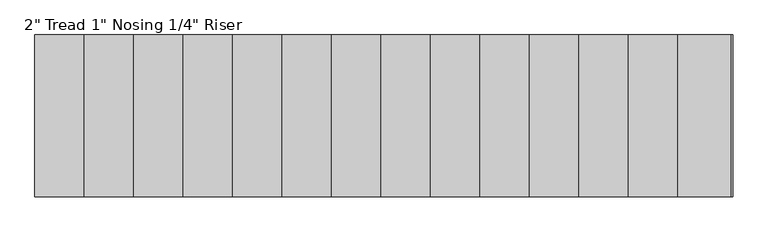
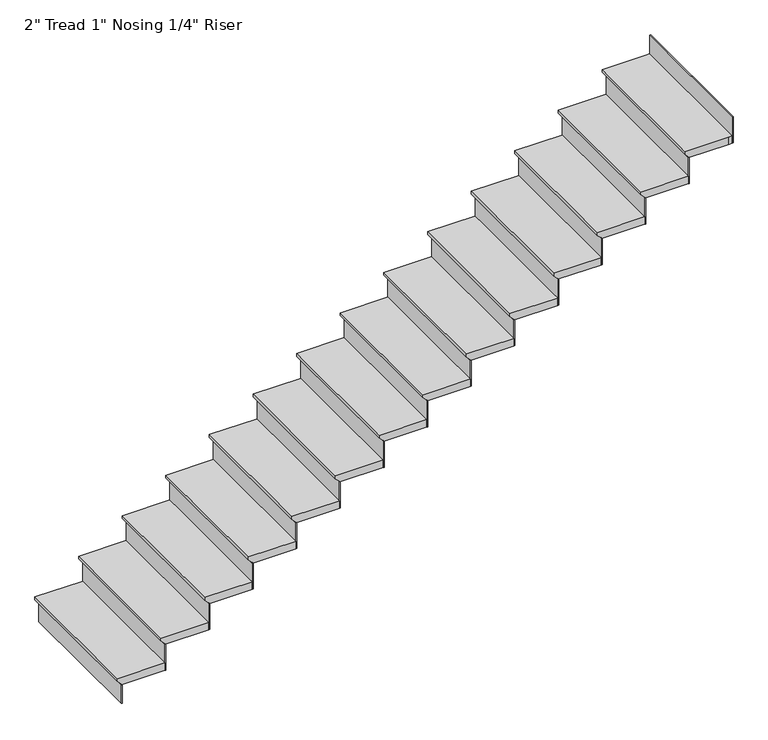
"""IFC4 building model written with IfcOpenShell, lengths in millimetres: stair flight geometry."""

from ifc_helpers import new_model, si_unit, origin, place, context, project, spatial, faceted_brep, source, transform, mapped, element, save


def stair_flight_67c8fb9e(model_context):
    return source(origin(), model_context, "Body", "Brep", [
        faceted_brep([(15099.262245, 3674.9112109, 157.9306452), (15099.262245, 3674.9112109, 176.9806452), (15099.262245, 4589.3112109, 176.9806452), (15099.262245, 4589.3112109, 157.9306452), (15124.662245, 3674.9112109, 132.5306452), (15124.662245, 4589.3112109, 132.5306452), (15404.062245, 3674.9112109, 176.9806452), (15404.062245, 4589.3112109, 176.9806452), (15124.662245, 4589.3112109, 126.1806452), (15404.062245, 4589.3112109, 126.1806452), (15404.062245, 3674.9112109, 126.1806452), (15124.662245, 3674.9112109, 126.1806452)], [[[0, 1, 2, 3]], [[4, 0, 3, 5]], [[2, 1, 6, 7]], [[8, 9, 10, 11]], [[2, 7, 9, 8, 5, 3]], [[8, 11, 4, 5]], [[6, 1, 0, 4, 11, 10]], [[7, 6, 10, 9]]]),
        faceted_brep([(15124.662245, 3674.9112109, 126.1806452), (15124.662245, 3674.9112109, 0.0), (15131.012245, 3674.9112109, 0.0), (15131.012245, 3674.9112109, 126.1806452), (15124.662245, 4589.3112109, 126.1806452), (15131.012245, 4589.3112109, 126.1806452), (15131.012245, 4589.3112109, 0.0), (15124.662245, 4589.3112109, 0.0)], [[[0, 1, 2, 3]], [[4, 5, 6, 7]], [[1, 0, 4, 7]], [[2, 1, 7, 6]], [[3, 2, 6, 5]], [[0, 3, 5, 4]]]),
        faceted_brep([(15404.062245, 3674.9112109, 303.1612903), (15404.062245, 3674.9112109, 126.1806452), (15410.412245, 3674.9112109, 126.1806452), (15410.412245, 3674.9112109, 303.1612903), (15404.062245, 4589.3112109, 303.1612903), (15410.412245, 4589.3112109, 303.1612903), (15410.412245, 4589.3112109, 126.1806452), (15404.062245, 4589.3112109, 126.1806452)], [[[0, 1, 2, 3]], [[4, 5, 6, 7]], [[1, 0, 4, 7]], [[2, 1, 7, 6]], [[3, 2, 6, 5]], [[0, 3, 5, 4]]]),
        faceted_brep([(15378.662245, 4589.3112109, 353.9612903), (15378.662245, 3674.9112109, 353.9612903), (15683.462245, 3674.9112109, 353.9612903), (15683.462245, 4589.3112109, 353.9612903), (15404.062245, 4589.3112109, 303.1612903), (15683.462245, 4589.3112109, 303.1612903), (15683.462245, 3674.9112109, 303.1612903), (15404.062245, 3674.9112109, 303.1612903), (15404.062245, 4589.3112109, 309.5112903), (15378.662245, 4589.3112109, 334.9112903), (15404.062245, 3674.9112109, 309.5112903), (15378.662245, 3674.9112109, 334.9112903)], [[[0, 1, 2, 3]], [[4, 5, 6, 7]], [[0, 3, 5, 4, 8, 9]], [[4, 7, 10, 8]], [[2, 1, 11, 10, 7, 6]], [[3, 2, 6, 5]], [[11, 1, 0, 9]], [[10, 11, 9, 8]]]),
        faceted_brep([(15683.462245, 3674.9112109, 480.1419355), (15683.462245, 3674.9112109, 303.1612903), (15689.812245, 3674.9112109, 303.1612903), (15689.812245, 3674.9112109, 480.1419355), (15683.462245, 4589.3112109, 480.1419355), (15689.812245, 4589.3112109, 480.1419355), (15689.812245, 4589.3112109, 303.1612903), (15683.462245, 4589.3112109, 303.1612903)], [[[0, 1, 2, 3]], [[4, 5, 6, 7]], [[1, 0, 4, 7]], [[2, 1, 7, 6]], [[3, 2, 6, 5]], [[0, 3, 5, 4]]]),
        faceted_brep([(15658.062245, 4589.3112109, 530.9419355), (15658.062245, 3674.9112109, 530.9419355), (15962.862245, 3674.9112109, 530.9419355), (15962.862245, 4589.3112109, 530.9419355), (15683.462245, 4589.3112109, 480.1419355), (15962.862245, 4589.3112109, 480.1419355), (15962.862245, 3674.9112109, 480.1419355), (15683.462245, 3674.9112109, 480.1419355), (15683.462245, 4589.3112109, 486.4919355), (15658.062245, 4589.3112109, 511.8919355), (15683.462245, 3674.9112109, 486.4919355), (15658.062245, 3674.9112109, 511.8919355)], [[[0, 1, 2, 3]], [[4, 5, 6, 7]], [[0, 3, 5, 4, 8, 9]], [[4, 7, 10, 8]], [[2, 1, 11, 10, 7, 6]], [[3, 2, 6, 5]], [[11, 1, 0, 9]], [[10, 11, 9, 8]]]),
        faceted_brep([(15962.862245, 3674.9112109, 657.1225806), (15962.862245, 3674.9112109, 480.1419355), (15969.212245, 3674.9112109, 480.1419355), (15969.212245, 3674.9112109, 657.1225806), (15962.862245, 4589.3112109, 657.1225806), (15969.212245, 4589.3112109, 657.1225806), (15969.212245, 4589.3112109, 480.1419355), (15962.862245, 4589.3112109, 480.1419355)], [[[0, 1, 2, 3]], [[4, 5, 6, 7]], [[1, 0, 4, 7]], [[2, 1, 7, 6]], [[3, 2, 6, 5]], [[0, 3, 5, 4]]]),
        faceted_brep([(15937.462245, 4589.3112109, 707.9225806), (15937.462245, 3674.9112109, 707.9225806), (16242.262245, 3674.9112109, 707.9225806), (16242.262245, 4589.3112109, 707.9225806), (15962.862245, 4589.3112109, 657.1225806), (16242.262245, 4589.3112109, 657.1225806), (16242.262245, 3674.9112109, 657.1225806), (15962.862245, 3674.9112109, 657.1225806), (15962.862245, 4589.3112109, 663.4725806), (15937.462245, 4589.3112109, 688.8725806), (15962.862245, 3674.9112109, 663.4725806), (15937.462245, 3674.9112109, 688.8725806)], [[[0, 1, 2, 3]], [[4, 5, 6, 7]], [[0, 3, 5, 4, 8, 9]], [[4, 7, 10, 8]], [[2, 1, 11, 10, 7, 6]], [[3, 2, 6, 5]], [[11, 1, 0, 9]], [[10, 11, 9, 8]]]),
        faceted_brep([(16242.262245, 3674.9112109, 834.1032258), (16242.262245, 3674.9112109, 657.1225806), (16248.612245, 3674.9112109, 657.1225806), (16248.612245, 3674.9112109, 834.1032258), (16242.262245, 4589.3112109, 834.1032258), (16248.612245, 4589.3112109, 834.1032258), (16248.612245, 4589.3112109, 657.1225806), (16242.262245, 4589.3112109, 657.1225806)], [[[0, 1, 2, 3]], [[4, 5, 6, 7]], [[1, 0, 4, 7]], [[2, 1, 7, 6]], [[3, 2, 6, 5]], [[0, 3, 5, 4]]]),
        faceted_brep([(16216.862245, 4589.3112109, 884.9032258), (16216.862245, 3674.9112109, 884.9032258), (16521.662245, 3674.9112109, 884.9032258), (16521.662245, 4589.3112109, 884.9032258), (16242.262245, 4589.3112109, 834.1032258), (16521.662245, 4589.3112109, 834.1032258), (16521.662245, 3674.9112109, 834.1032258), (16242.262245, 3674.9112109, 834.1032258), (16242.262245, 4589.3112109, 840.4532258), (16216.862245, 4589.3112109, 865.8532258), (16242.262245, 3674.9112109, 840.4532258), (16216.862245, 3674.9112109, 865.8532258)], [[[0, 1, 2, 3]], [[4, 5, 6, 7]], [[0, 3, 5, 4, 8, 9]], [[4, 7, 10, 8]], [[2, 1, 11, 10, 7, 6]], [[3, 2, 6, 5]], [[11, 1, 0, 9]], [[10, 11, 9, 8]]]),
        faceted_brep([(16521.662245, 3674.9112109, 1011.083871), (16521.662245, 3674.9112109, 834.1032258), (16528.012245, 3674.9112109, 834.1032258), (16528.012245, 3674.9112109, 1011.083871), (16521.662245, 4589.3112109, 1011.083871), (16528.012245, 4589.3112109, 1011.083871), (16528.012245, 4589.3112109, 834.1032258), (16521.662245, 4589.3112109, 834.1032258)], [[[0, 1, 2, 3]], [[4, 5, 6, 7]], [[1, 0, 4, 7]], [[2, 1, 7, 6]], [[3, 2, 6, 5]], [[0, 3, 5, 4]]]),
        faceted_brep([(16496.262245, 4589.3112109, 1061.883871), (16496.262245, 3674.9112109, 1061.883871), (16801.062245, 3674.9112109, 1061.883871), (16801.062245, 4589.3112109, 1061.883871), (16521.662245, 4589.3112109, 1011.083871), (16801.062245, 4589.3112109, 1011.083871), (16801.062245, 3674.9112109, 1011.083871), (16521.662245, 3674.9112109, 1011.083871), (16521.662245, 4589.3112109, 1017.433871), (16496.262245, 4589.3112109, 1042.833871), (16521.662245, 3674.9112109, 1017.433871), (16496.262245, 3674.9112109, 1042.833871)], [[[0, 1, 2, 3]], [[4, 5, 6, 7]], [[0, 3, 5, 4, 8, 9]], [[4, 7, 10, 8]], [[2, 1, 11, 10, 7, 6]], [[3, 2, 6, 5]], [[11, 1, 0, 9]], [[10, 11, 9, 8]]]),
        faceted_brep([(16801.062245, 3674.9112109, 1188.0645161), (16801.062245, 3674.9112109, 1011.083871), (16807.412245, 3674.9112109, 1011.083871), (16807.412245, 3674.9112109, 1188.0645161), (16801.062245, 4589.3112109, 1188.0645161), (16807.412245, 4589.3112109, 1188.0645161), (16807.412245, 4589.3112109, 1011.083871), (16801.062245, 4589.3112109, 1011.083871)], [[[0, 1, 2, 3]], [[4, 5, 6, 7]], [[1, 0, 4, 7]], [[2, 1, 7, 6]], [[3, 2, 6, 5]], [[0, 3, 5, 4]]]),
        faceted_brep([(16775.662245, 4589.3112109, 1238.8645161), (16775.662245, 3674.9112109, 1238.8645161), (17080.462245, 3674.9112109, 1238.8645161), (17080.462245, 4589.3112109, 1238.8645161), (16801.062245, 4589.3112109, 1188.0645161), (17080.462245, 4589.3112109, 1188.0645161), (17080.462245, 3674.9112109, 1188.0645161), (16801.062245, 3674.9112109, 1188.0645161), (16801.062245, 4589.3112109, 1194.4145161), (16775.662245, 4589.3112109, 1219.8145161), (16801.062245, 3674.9112109, 1194.4145161), (16775.662245, 3674.9112109, 1219.8145161)], [[[0, 1, 2, 3]], [[4, 5, 6, 7]], [[0, 3, 5, 4, 8, 9]], [[4, 7, 10, 8]], [[2, 1, 11, 10, 7, 6]], [[3, 2, 6, 5]], [[11, 1, 0, 9]], [[10, 11, 9, 8]]]),
        faceted_brep([(17080.462245, 3674.9112109, 1365.0451613), (17080.462245, 3674.9112109, 1188.0645161), (17086.812245, 3674.9112109, 1188.0645161), (17086.812245, 3674.9112109, 1365.0451613), (17080.462245, 4589.3112109, 1365.0451613), (17086.812245, 4589.3112109, 1365.0451613), (17086.812245, 4589.3112109, 1188.0645161), (17080.462245, 4589.3112109, 1188.0645161)], [[[0, 1, 2, 3]], [[4, 5, 6, 7]], [[1, 0, 4, 7]], [[2, 1, 7, 6]], [[3, 2, 6, 5]], [[0, 3, 5, 4]]]),
        faceted_brep([(17055.062245, 4589.3112109, 1415.8451613), (17055.062245, 3674.9112109, 1415.8451613), (17359.862245, 3674.9112109, 1415.8451613), (17359.862245, 4589.3112109, 1415.8451613), (17080.462245, 4589.3112109, 1365.0451613), (17359.862245, 4589.3112109, 1365.0451613), (17359.862245, 3674.9112109, 1365.0451613), (17080.462245, 3674.9112109, 1365.0451613), (17080.462245, 4589.3112109, 1371.3951613), (17055.062245, 4589.3112109, 1396.7951613), (17080.462245, 3674.9112109, 1371.3951613), (17055.062245, 3674.9112109, 1396.7951613)], [[[0, 1, 2, 3]], [[4, 5, 6, 7]], [[0, 3, 5, 4, 8, 9]], [[4, 7, 10, 8]], [[2, 1, 11, 10, 7, 6]], [[3, 2, 6, 5]], [[11, 1, 0, 9]], [[10, 11, 9, 8]]]),
        faceted_brep([(17359.862245, 3674.9112109, 1542.0258065), (17359.862245, 3674.9112109, 1365.0451613), (17366.212245, 3674.9112109, 1365.0451613), (17366.212245, 3674.9112109, 1542.0258065), (17359.862245, 4589.3112109, 1542.0258065), (17366.212245, 4589.3112109, 1542.0258065), (17366.212245, 4589.3112109, 1365.0451613), (17359.862245, 4589.3112109, 1365.0451613)], [[[0, 1, 2, 3]], [[4, 5, 6, 7]], [[1, 0, 4, 7]], [[2, 1, 7, 6]], [[3, 2, 6, 5]], [[0, 3, 5, 4]]]),
        faceted_brep([(17334.462245, 4589.3112109, 1592.8258065), (17334.462245, 3674.9112109, 1592.8258065), (17639.262245, 3674.9112109, 1592.8258065), (17639.262245, 4589.3112109, 1592.8258065), (17359.862245, 4589.3112109, 1542.0258065), (17639.262245, 4589.3112109, 1542.0258065), (17639.262245, 3674.9112109, 1542.0258065), (17359.862245, 3674.9112109, 1542.0258065), (17359.862245, 4589.3112109, 1548.3758065), (17334.462245, 4589.3112109, 1573.7758065), (17359.862245, 3674.9112109, 1548.3758065), (17334.462245, 3674.9112109, 1573.7758065)], [[[0, 1, 2, 3]], [[4, 5, 6, 7]], [[0, 3, 5, 4, 8, 9]], [[4, 7, 10, 8]], [[2, 1, 11, 10, 7, 6]], [[3, 2, 6, 5]], [[11, 1, 0, 9]], [[10, 11, 9, 8]]]),
        faceted_brep([(17639.262245, 3674.9112109, 1719.0064516), (17639.262245, 3674.9112109, 1542.0258065), (17645.612245, 3674.9112109, 1542.0258065), (17645.612245, 3674.9112109, 1719.0064516), (17639.262245, 4589.3112109, 1719.0064516), (17645.612245, 4589.3112109, 1719.0064516), (17645.612245, 4589.3112109, 1542.0258065), (17639.262245, 4589.3112109, 1542.0258065)], [[[0, 1, 2, 3]], [[4, 5, 6, 7]], [[1, 0, 4, 7]], [[2, 1, 7, 6]], [[3, 2, 6, 5]], [[0, 3, 5, 4]]]),
        faceted_brep([(17613.862245, 4589.3112109, 1769.8064516), (17613.862245, 3674.9112109, 1769.8064516), (17918.662245, 3674.9112109, 1769.8064516), (17918.662245, 4589.3112109, 1769.8064516), (17639.262245, 4589.3112109, 1719.0064516), (17918.662245, 4589.3112109, 1719.0064516), (17918.662245, 3674.9112109, 1719.0064516), (17639.262245, 3674.9112109, 1719.0064516), (17639.262245, 4589.3112109, 1725.3564516), (17613.862245, 4589.3112109, 1750.7564516), (17639.262245, 3674.9112109, 1725.3564516), (17613.862245, 3674.9112109, 1750.7564516)], [[[0, 1, 2, 3]], [[4, 5, 6, 7]], [[0, 3, 5, 4, 8, 9]], [[4, 7, 10, 8]], [[2, 1, 11, 10, 7, 6]], [[3, 2, 6, 5]], [[11, 1, 0, 9]], [[10, 11, 9, 8]]]),
        faceted_brep([(17918.662245, 3674.9112109, 1895.9870968), (17918.662245, 3674.9112109, 1719.0064516), (17925.012245, 3674.9112109, 1719.0064516), (17925.012245, 3674.9112109, 1895.9870968), (17918.662245, 4589.3112109, 1895.9870968), (17925.012245, 4589.3112109, 1895.9870968), (17925.012245, 4589.3112109, 1719.0064516), (17918.662245, 4589.3112109, 1719.0064516)], [[[0, 1, 2, 3]], [[4, 5, 6, 7]], [[1, 0, 4, 7]], [[2, 1, 7, 6]], [[3, 2, 6, 5]], [[0, 3, 5, 4]]]),
        faceted_brep([(17893.262245, 4589.3112109, 1946.7870968), (17893.262245, 3674.9112109, 1946.7870968), (18198.062245, 3674.9112109, 1946.7870968), (18198.062245, 4589.3112109, 1946.7870968), (17918.662245, 4589.3112109, 1895.9870968), (18198.062245, 4589.3112109, 1895.9870968), (18198.062245, 3674.9112109, 1895.9870968), (17918.662245, 3674.9112109, 1895.9870968), (17918.662245, 4589.3112109, 1902.3370968), (17893.262245, 4589.3112109, 1927.7370968), (17918.662245, 3674.9112109, 1902.3370968), (17893.262245, 3674.9112109, 1927.7370968)], [[[0, 1, 2, 3]], [[4, 5, 6, 7]], [[0, 3, 5, 4, 8, 9]], [[4, 7, 10, 8]], [[2, 1, 11, 10, 7, 6]], [[3, 2, 6, 5]], [[11, 1, 0, 9]], [[10, 11, 9, 8]]]),
        faceted_brep([(18198.062245, 3674.9112109, 2072.9677419), (18198.062245, 3674.9112109, 1895.9870968), (18204.412245, 3674.9112109, 1895.9870968), (18204.412245, 3674.9112109, 2072.9677419), (18198.062245, 4589.3112109, 2072.9677419), (18204.412245, 4589.3112109, 2072.9677419), (18204.412245, 4589.3112109, 1895.9870968), (18198.062245, 4589.3112109, 1895.9870968)], [[[0, 1, 2, 3]], [[4, 5, 6, 7]], [[1, 0, 4, 7]], [[2, 1, 7, 6]], [[3, 2, 6, 5]], [[0, 3, 5, 4]]]),
        faceted_brep([(18172.662245, 4589.3112109, 2123.7677419), (18172.662245, 3674.9112109, 2123.7677419), (18477.462245, 3674.9112109, 2123.7677419), (18477.462245, 4589.3112109, 2123.7677419), (18198.062245, 4589.3112109, 2072.9677419), (18477.462245, 4589.3112109, 2072.9677419), (18477.462245, 3674.9112109, 2072.9677419), (18198.062245, 3674.9112109, 2072.9677419), (18198.062245, 4589.3112109, 2079.3177419), (18172.662245, 4589.3112109, 2104.7177419), (18198.062245, 3674.9112109, 2079.3177419), (18172.662245, 3674.9112109, 2104.7177419)], [[[0, 1, 2, 3]], [[4, 5, 6, 7]], [[0, 3, 5, 4, 8, 9]], [[4, 7, 10, 8]], [[2, 1, 11, 10, 7, 6]], [[3, 2, 6, 5]], [[11, 1, 0, 9]], [[10, 11, 9, 8]]]),
        faceted_brep([(18477.462245, 3674.9112109, 2249.9483871), (18477.462245, 3674.9112109, 2072.9677419), (18483.812245, 3674.9112109, 2072.9677419), (18483.812245, 3674.9112109, 2249.9483871), (18477.462245, 4589.3112109, 2249.9483871), (18483.812245, 4589.3112109, 2249.9483871), (18483.812245, 4589.3112109, 2072.9677419), (18477.462245, 4589.3112109, 2072.9677419)], [[[0, 1, 2, 3]], [[4, 5, 6, 7]], [[1, 0, 4, 7]], [[2, 1, 7, 6]], [[3, 2, 6, 5]], [[0, 3, 5, 4]]]),
        faceted_brep([(18452.062245, 4589.3112109, 2300.7483871), (18452.062245, 3674.9112109, 2300.7483871), (18756.862245, 3674.9112109, 2300.7483871), (18756.862245, 4589.3112109, 2300.7483871), (18477.462245, 4589.3112109, 2249.9483871), (18756.862245, 4589.3112109, 2249.9483871), (18756.862245, 3674.9112109, 2249.9483871), (18477.462245, 3674.9112109, 2249.9483871), (18477.462245, 4589.3112109, 2256.2983871), (18452.062245, 4589.3112109, 2281.6983871), (18477.462245, 3674.9112109, 2256.2983871), (18452.062245, 3674.9112109, 2281.6983871)], [[[0, 1, 2, 3]], [[4, 5, 6, 7]], [[0, 3, 5, 4, 8, 9]], [[4, 7, 10, 8]], [[2, 1, 11, 10, 7, 6]], [[3, 2, 6, 5]], [[11, 1, 0, 9]], [[10, 11, 9, 8]]]),
        faceted_brep([(19036.262245, 3674.9112109, 2603.9096774), (19036.262245, 3674.9112109, 2426.9290323), (19042.612245, 3674.9112109, 2426.9290323), (19042.612245, 3674.9112109, 2603.9096774), (19036.262245, 4589.3112109, 2603.9096774), (19042.612245, 4589.3112109, 2603.9096774), (19042.612245, 4589.3112109, 2426.9290323), (19036.262245, 4589.3112109, 2426.9290323)], [[[0, 1, 2, 3]], [[4, 5, 6, 7]], [[1, 0, 4, 7]], [[2, 1, 7, 6]], [[3, 2, 6, 5]], [[0, 3, 5, 4]]]),
        faceted_brep([(18756.862245, 3674.9112109, 2426.9290323), (18756.862245, 3674.9112109, 2249.9483871), (18763.212245, 3674.9112109, 2249.9483871), (18763.212245, 3674.9112109, 2426.9290323), (18756.862245, 4589.3112109, 2426.9290323), (18763.212245, 4589.3112109, 2426.9290323), (18763.212245, 4589.3112109, 2249.9483871), (18756.862245, 4589.3112109, 2249.9483871)], [[[0, 1, 2, 3]], [[4, 5, 6, 7]], [[1, 0, 4, 7]], [[2, 1, 7, 6]], [[3, 2, 6, 5]], [[0, 3, 5, 4]]]),
        faceted_brep([(19036.262245, 4589.3112109, 2477.7290323), (19010.862245, 4589.3112109, 2477.7290323), (18731.462245, 4589.3112109, 2477.7290323), (18731.462245, 3674.9112109, 2477.7290323), (19010.862245, 3674.9112109, 2477.7290323), (19036.262245, 3674.9112109, 2477.7290323), (19010.862245, 4589.3112109, 2426.9290323), (19036.262245, 4589.3112109, 2426.9290323), (19036.262245, 3674.9112109, 2426.9290323), (19010.862245, 3674.9112109, 2426.9290323), (18756.862245, 3674.9112109, 2426.9290323), (18756.862245, 4589.3112109, 2426.9290323), (18756.862245, 4589.3112109, 2433.2790323), (18731.462245, 4589.3112109, 2458.6790323), (18756.862245, 3674.9112109, 2433.2790323), (18731.462245, 3674.9112109, 2458.6790323)], [[[0, 1, 2, 3, 4, 5]], [[6, 7, 8, 9, 10, 11]], [[1, 0, 7, 6]], [[2, 1, 6, 11, 12, 13]], [[11, 10, 14, 12]], [[4, 3, 15, 14, 10, 9]], [[5, 4, 9, 8]], [[0, 5, 8, 7]], [[15, 3, 2, 13]], [[14, 15, 13, 12]]]),
    ])


if __name__ == "__main__":
    model = new_model("IFC4")
    model_context = context("Model", 3, world=origin())
    ifc_project = project(units=[si_unit("LENGTHUNIT", "METRE", prefix="MILLI")], contexts=[model_context])
    site = spatial("IfcSite", under=ifc_project)
    building = spatial("IfcBuilding", under=site)
    placement = place(None, origin())
    stair_flight_shape = stair_flight_67c8fb9e(model_context)
    element("IfcStairFlight", 1, ObjectType="2\" Tread 1\" Nosing 1/4\" Riser", at=placement, inside=building, context=model_context, shape_type="MappedRepresentation", body=[
        mapped(stair_flight_shape, transform((0.0, 0.0, 0.0), x_axis=(1.0, 0.0, 0.0), y_axis=(0.0, 1.0, 0.0), z_axis=(0.0, 0.0, 1.0))),
    ])
    save(model, "model.ifc")
